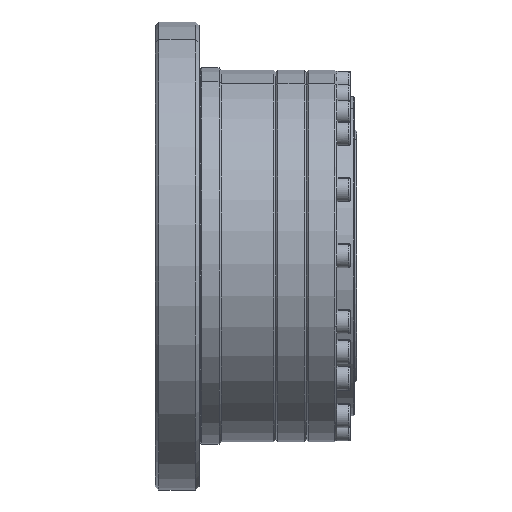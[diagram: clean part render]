
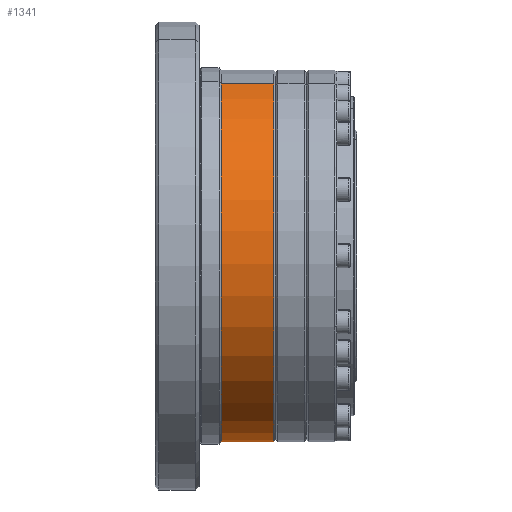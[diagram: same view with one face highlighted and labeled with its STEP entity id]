
A CAD part, top view. The second image highlights one B-rep face of the part: STEP entity #1341.
In plain terms, the highlighted cylindrical face has radius 42.5 mm (diameter 85 mm), a partial arc.
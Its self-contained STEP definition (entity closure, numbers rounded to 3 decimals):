
#1341=ADVANCED_FACE('NONE',(#3011),#3012,.T.);
#3011=FACE_OUTER_BOUND('',#5928,.T.);
#3012=CYLINDRICAL_SURFACE('',#5929,42.5);
#5928=EDGE_LOOP('',(#10075,#10076,#10077,#10078));
#5929=AXIS2_PLACEMENT_3D('',#10079,#10080,#10081);
#10075=ORIENTED_EDGE('',*,*,#13840,.F.);
#10076=ORIENTED_EDGE('',*,*,#13841,.F.);
#10077=ORIENTED_EDGE('',*,*,#13819,.T.);
#10078=ORIENTED_EDGE('',*,*,#13842,.F.);
#10079=CARTESIAN_POINT('',(27.05,0.,0.));
#10080=DIRECTION('',(1.0,0.0,0.0));
#10081=DIRECTION('',(0.0,-0.924,-0.383));
#13819=EDGE_CURVE('NONE',#16481,#16482,#16483,.T.);
#13840=EDGE_CURVE('NONE',#16514,#16515,#16516,.T.);
#13841=EDGE_CURVE('NONE',#16481,#16514,#16517,.T.);
#13842=EDGE_CURVE('NONE',#16515,#16482,#16518,.T.);
#16481=VERTEX_POINT('NONE',#21350);
#16482=VERTEX_POINT('NONE',#21351);
#16483=CIRCLE('',#21352,42.5);
#16514=VERTEX_POINT('NONE',#21465);
#16515=VERTEX_POINT('NONE',#21466);
#16516=CIRCLE('',#21467,42.5);
#16517=LINE('',#21468,#21469);
#16518=LINE('',#21470,#21471);
#21350=CARTESIAN_POINT('',(27.05,-39.265,-16.264));
#21351=CARTESIAN_POINT('',(27.05,39.265,16.264));
#21352=AXIS2_PLACEMENT_3D('',#24659,#24660,#24661);
#21465=CARTESIAN_POINT('',(15.05,-39.265,-16.264));
#21466=CARTESIAN_POINT('',(15.05,39.265,16.264));
#21467=AXIS2_PLACEMENT_3D('',#24673,#24674,#24675);
#21468=CARTESIAN_POINT('',(27.05,-39.265,-16.264));
#21469=VECTOR('',#24676,1000.);
#21470=CARTESIAN_POINT('',(27.05,39.265,16.264));
#21471=VECTOR('',#24677,1000.);
#24659=CARTESIAN_POINT('',(27.05,0.,0.));
#24660=DIRECTION('',(-1.0,-0.0,0.0));
#24661=DIRECTION('',(0.0,-0.924,-0.383));
#24673=CARTESIAN_POINT('',(15.05,0.,0.));
#24674=DIRECTION('',(-1.0,-0.0,0.0));
#24675=DIRECTION('',(0.0,-0.924,-0.383));
#24676=DIRECTION('',(-1.0,-0.0,0.0));
#24677=DIRECTION('',(1.0,0.0,0.0));
